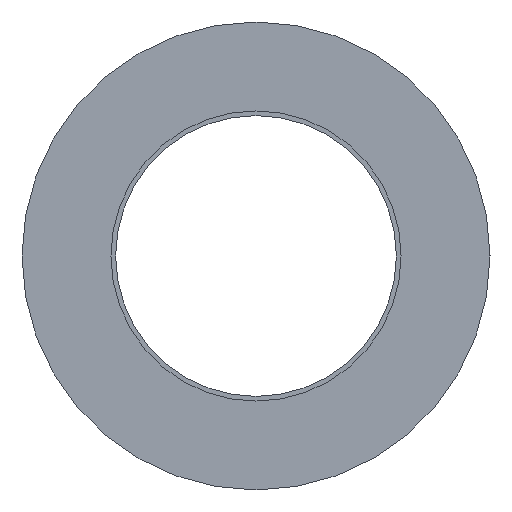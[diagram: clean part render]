
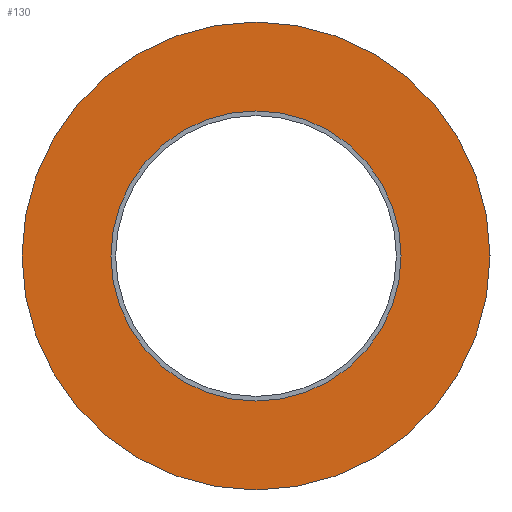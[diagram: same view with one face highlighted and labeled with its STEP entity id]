
A CAD part, left-side view. The second image highlights one B-rep face of the part: STEP entity #130.
In plain terms, the highlighted planar face has unit normal (-1, 0, 0).
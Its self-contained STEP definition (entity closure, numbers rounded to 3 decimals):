
#96 = VERTEX_POINT( '', #198 );
#106 = EDGE_CURVE( '', #124, #140, #208, .T. );
#112 = EDGE_CURVE( '', #140, #124, #214, .T. );
#124 = VERTEX_POINT( '', #227 );
#130 = ADVANCED_FACE( '', ( #235, #236 ), #237, .T. );
#132 = VERTEX_POINT( '', #239 );
#134 = EDGE_CURVE( '', #132, #96, #241, .T. );
#140 = VERTEX_POINT( '', #248 );
#142 = EDGE_CURVE( '', #96, #132, #250, .T. );
#198 = CARTESIAN_POINT( '', ( 0., -3.1, 0. ) );
#208 = CIRCLE( '', #319, 5. );
#214 = CIRCLE( '', #330, 5. );
#227 = CARTESIAN_POINT( '', ( 0., -5., 0. ) );
#235 = FACE_BOUND( '', #355, .T. );
#236 = FACE_OUTER_BOUND( '', #356, .T. );
#237 = PLANE( '', #357 );
#239 = CARTESIAN_POINT( '', ( 0., 3.1, 0. ) );
#241 = CIRCLE( '', #362, 3.1 );
#248 = CARTESIAN_POINT( '', ( 0., 5., 0. ) );
#250 = CIRCLE( '', #371, 3.1 );
#319 = AXIS2_PLACEMENT_3D( '', #434, #435, #436 );
#330 = AXIS2_PLACEMENT_3D( '', #439, #440, #441 );
#355 = EDGE_LOOP( '', ( #466, #467 ) );
#356 = EDGE_LOOP( '', ( #468, #469 ) );
#357 = AXIS2_PLACEMENT_3D( '', #470, #471, #472 );
#362 = AXIS2_PLACEMENT_3D( '', #473, #474, #475 );
#371 = AXIS2_PLACEMENT_3D( '', #485, #486, #487 );
#434 = CARTESIAN_POINT( '', ( 0., 0., 0. ) );
#435 = DIRECTION( '', ( -1., 0., 0. ) );
#436 = DIRECTION( '', ( 0., 1., 0. ) );
#439 = CARTESIAN_POINT( '', ( 0., 0., 0. ) );
#440 = DIRECTION( '', ( -1., 0., 0. ) );
#441 = DIRECTION( '', ( 0., 1., 0. ) );
#466 = ORIENTED_EDGE( '', *, *, #134, .F. );
#467 = ORIENTED_EDGE( '', *, *, #142, .F. );
#468 = ORIENTED_EDGE( '', *, *, #112, .T. );
#469 = ORIENTED_EDGE( '', *, *, #106, .T. );
#470 = CARTESIAN_POINT( '', ( 0., 4.05, 0. ) );
#471 = DIRECTION( '', ( -1., 0., 0. ) );
#472 = DIRECTION( '', ( 0., 1., 0. ) );
#473 = CARTESIAN_POINT( '', ( 0., 0., 0. ) );
#474 = DIRECTION( '', ( -1., 0., 0. ) );
#475 = DIRECTION( '', ( 0., 1., 0. ) );
#485 = CARTESIAN_POINT( '', ( 0., 0., 0. ) );
#486 = DIRECTION( '', ( -1., 0., 0. ) );
#487 = DIRECTION( '', ( 0., 1., 0. ) );
